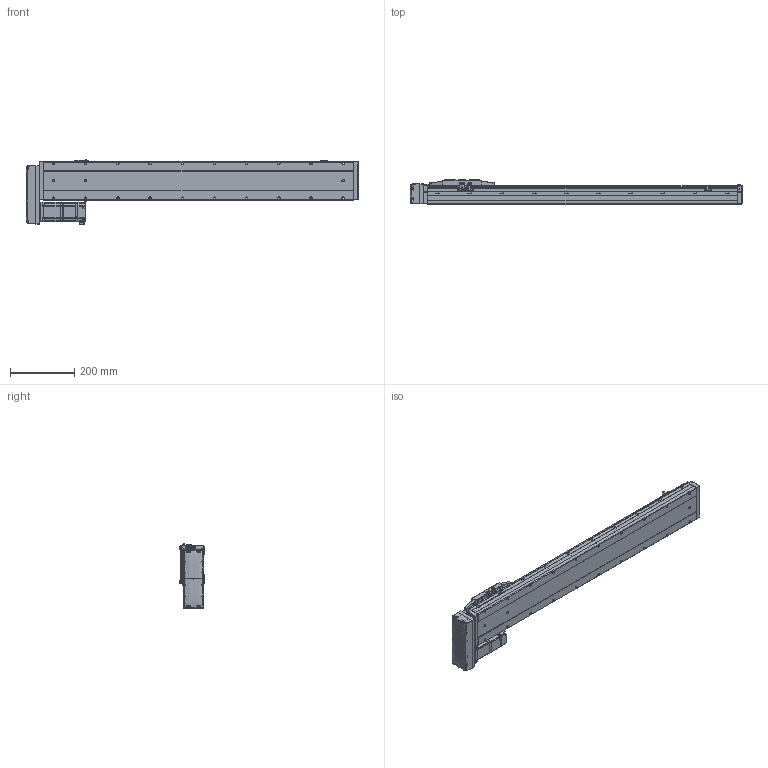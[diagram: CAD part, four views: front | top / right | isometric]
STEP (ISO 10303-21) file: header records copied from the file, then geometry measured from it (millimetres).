
FILE_DESCRIPTION (( 'STEP AP214' ), '1' );
FILE_NAME ('CTH12-L10-S750-BR-C40（简）.STEP', '2023-02-04T07:02:06', ( '' ), ( '' ), 'SwSTEP 2.0', 'SolidWorks 2018', '' );
FILE_SCHEMA (( 'AUTOMOTIVE_DESIGN' ));
Length unit declared in the file: millimetre
Products named in the file (24): CTH12; CTH12覜茼え; CTH12侧装连接板（标准）简; M5蹟隊; CTH12賑怢ㄗ潠ㄘ; 蚐郲; 内六角圆柱头螺钉M3-1; CTH12_body_3; CTH12耜蚾裔; PM-Y45; CTH12-L10-S750-BR-C40（简）; CTH400W假蚾啣; CTH12賑怢郪磁; CTH12底座-L961简（750行程）; 内六角圆柱头螺钉M3; hex nuts, style 1-grades ab gb_GB_FASTENER_NUT_SNAB1 M3-N; CTH400W垫板（3个厚）; CTH嫖萇羲壽假蚾啣; AC60_Valor predeterminado; 湮賑怢  裔赽-1(CTH12)賑怢; 内六角圆柱头螺钉M3-2; 嫖萇羲壽郪磁1; CTH12-BL_body_4; 嫖萇羲壽郪磁2
Assembly tree (44 placements, depth 4):
  CTH12-L10-S750-BR-C40（简）
    CTH12底座-L961简（750行程）
    蚐郲  x2
    CTH12_body_3
    CTH12-BL_body_4
    CTH12侧装连接板（标准）简
    CTH12耜蚾裔
    CTH12賑怢郪磁
      CTH12
        湮賑怢  裔赽-1(CTH12)賑怢
        CTH12賑怢ㄗ潠ㄘ
    CTH12覜茼え
    嫖萇羲壽郪磁1  x2
      CTH嫖萇羲壽假蚾啣
      PM-Y45
      内六角圆柱头螺钉M3-2
      内六角圆柱头螺钉M3-1
      hex nuts, style 1-grades ab gb_GB_FASTENER_NUT_SNAB1 M3-N
    嫖萇羲壽郪磁2
      CTH嫖萇羲壽假蚾啣
      PM-Y45
      内六角圆柱头螺钉M3-1  x2
      内六角圆柱头螺钉M3-2  x2
      hex nuts, style 1-grades ab gb_GB_FASTENER_NUT_SNAB1 M3-N  x2
    CTH400W垫板（3个厚）
    AC60_Valor predeterminado
    内六角圆柱头螺钉M3  x6
    M5蹟隊  x4
    CTH400W假蚾啣
Bounding box: 1031.5 x 76 x 201.06 mm (x, y, z)
Volume: 7193191.8 mm3; surface area: 671862.7 mm2
Topology: 47 solids, 48 shells, 2858 faces, 7285 edges, 4645 vertices
Faces by surface type: plane 1551, cylinder 798, cone 355, bspline 102, torus 52
Entity records: 83173 total; most frequent: CARTESIAN_POINT 22926, ORIENTED_EDGE 11750, DIRECTION 11430, EDGE_CURVE 5875, AXIS2_PLACEMENT_3D 3872, VERTEX_POINT 3749, VECTOR 3686, LINE 3686
